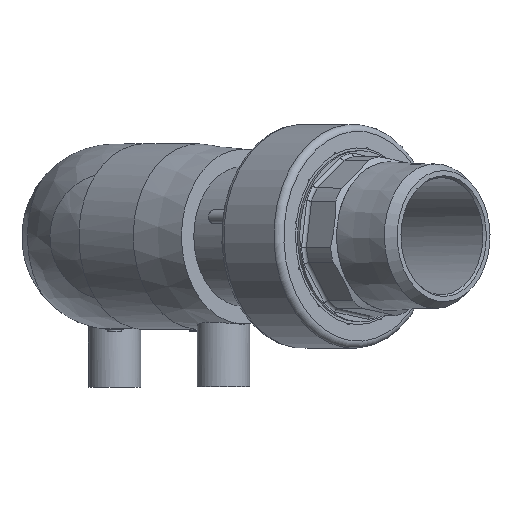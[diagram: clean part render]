
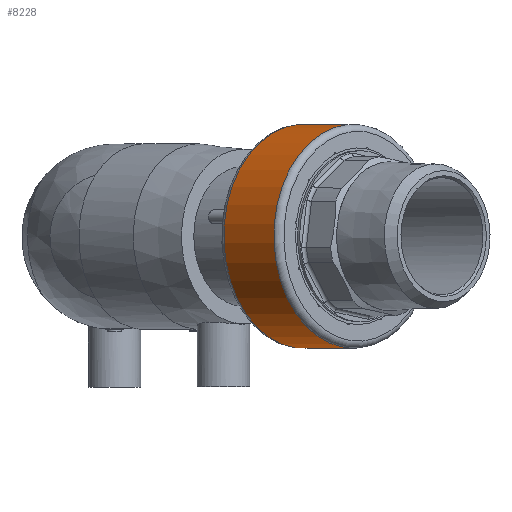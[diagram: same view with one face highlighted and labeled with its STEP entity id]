
A CAD part, top view. The second image highlights one B-rep face of the part: STEP entity #8228.
In plain terms, the highlighted cylindrical face has radius 32 mm (diameter 64 mm), a full revolution.
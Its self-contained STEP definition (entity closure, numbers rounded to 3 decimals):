
#1502=CYLINDRICAL_SURFACE('',#10761,32.);
#2891=ORIENTED_EDGE('',*,*,#4817,.T.);
#2892=ORIENTED_EDGE('',*,*,#4816,.F.);
#4816=EDGE_CURVE('',#5873,#5873,#6465,.T.);
#4817=EDGE_CURVE('',#5874,#5874,#6466,.T.);
#5873=VERTEX_POINT('',#17708);
#5874=VERTEX_POINT('',#17711);
#6465=CIRCLE('',#10760,32.);
#6466=CIRCLE('',#10762,32.);
#6952=EDGE_LOOP('',(#2891));
#6953=EDGE_LOOP('',(#2892));
#7557=FACE_BOUND('',#6952,.T.);
#7558=FACE_BOUND('',#6953,.T.);
#8228=ADVANCED_FACE('',(#7557,#7558),#1502,.T.);
#10760=AXIS2_PLACEMENT_3D('',#17707,#12336,#12337);
#10761=AXIS2_PLACEMENT_3D('',#17709,#12338,#12339);
#10762=AXIS2_PLACEMENT_3D('',#17710,#12340,#12341);
#12336=DIRECTION('',(-1.,0.,0.));
#12337=DIRECTION('',(0.,0.,1.));
#12338=DIRECTION('',(-1.,0.,0.));
#12339=DIRECTION('',(0.,0.,1.));
#12340=DIRECTION('',(-1.,0.,0.));
#12341=DIRECTION('',(0.,0.,1.));
#17707=CARTESIAN_POINT('',(2.,0.,0.));
#17708=CARTESIAN_POINT('',(2.,0.,32.));
#17709=CARTESIAN_POINT('',(-60.,0.,0.));
#17710=CARTESIAN_POINT('',(22.261,0.,0.));
#17711=CARTESIAN_POINT('',(22.261,0.,32.));
